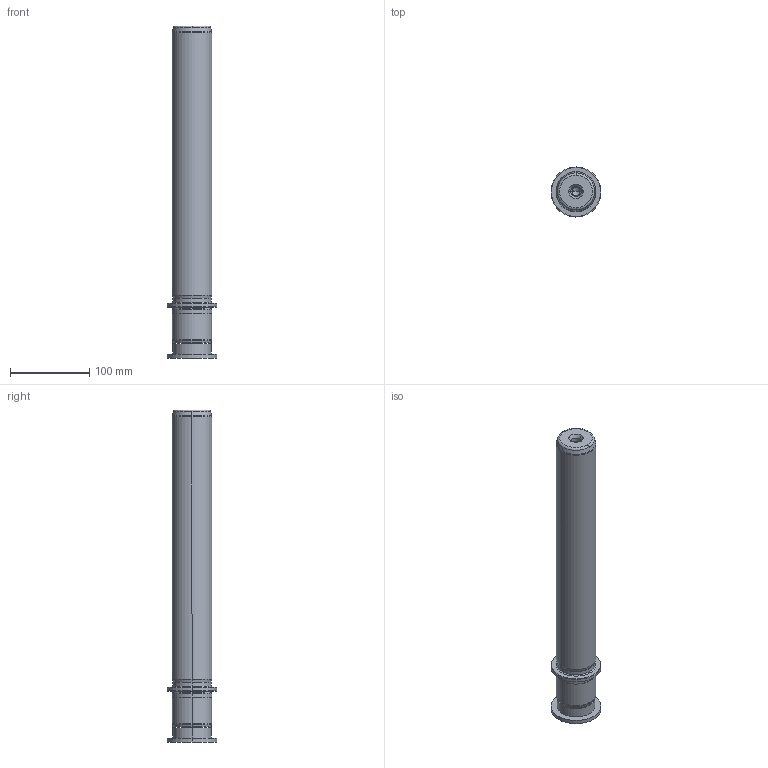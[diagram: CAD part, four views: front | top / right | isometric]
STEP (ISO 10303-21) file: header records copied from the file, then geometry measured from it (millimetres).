
FILE_DESCRIPTION((''),'2;1');
FILE_NAME('P22_050_355.stp','2009-11-02T10:52:40',(''),(''),'Mechanical Desktop 2009','Mechanical Desktop 2009',', , ');
FILE_SCHEMA(('CONFIG_CONTROL_DESIGN'));
Length unit declared in the file: millimetre
Products named in the file (2): Product; blmdl1
Assembly tree (1 placements, depth 2):
  Product
    blmdl1
Bounding box: 63 x 63 x 419 mm (x, y, z)
Volume: 820804.6 mm3; surface area: 83479.9 mm2
Topology: 3 solids, 3 shells, 99 faces, 237 edges, 149 vertices
Faces by surface type: cylinder 32, cone 28, plane 19, torus 10, bspline 10
Entity records: 3419 total; most frequent: CARTESIAN_POINT 923, DIRECTION 570, ORIENTED_EDGE 466, AXIS2_PLACEMENT_3D 246, EDGE_CURVE 233, CIRCLE 155, VERTEX_POINT 149, EDGE_LOOP 110
